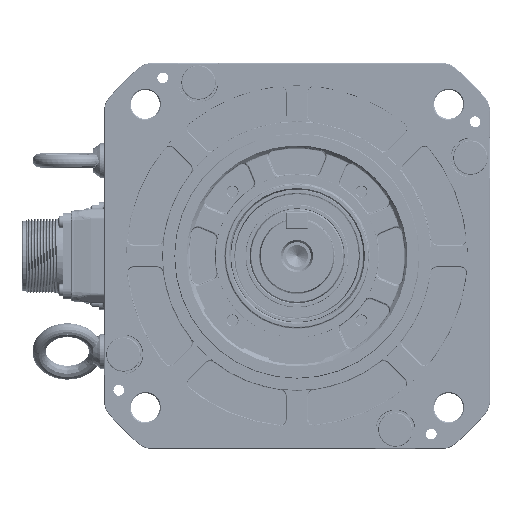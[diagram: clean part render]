
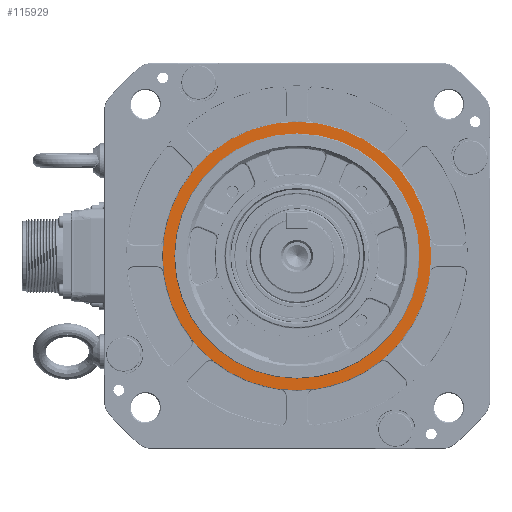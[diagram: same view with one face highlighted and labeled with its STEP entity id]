
A CAD part, left-side view. The second image highlights one B-rep face of the part: STEP entity #115929.
In plain terms, the highlighted planar face has unit normal (-1, 0, 0).
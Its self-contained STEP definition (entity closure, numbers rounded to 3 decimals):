
#404 = DIRECTION ( 'NONE',  ( 0., 0., -1. ) ) ;
#1047 = EDGE_CURVE ( 'NONE', #119074, #119074, #138706, .T. ) ;
#2658 = FACE_BOUND ( 'NONE', #79883, .T. ) ;
#12044 = AXIS2_PLACEMENT_3D ( 'NONE', #74759, #97770, #404 ) ;
#14904 = DIRECTION ( 'NONE',  ( 0., 0., -1. ) ) ;
#27126 = FACE_OUTER_BOUND ( 'NONE', #57266, .T. ) ;
#32975 = EDGE_CURVE ( 'NONE', #130398, #130398, #122417, .T. ) ;
#35814 = DIRECTION ( 'NONE',  ( 1., 0., 0. ) ) ;
#38764 = ORIENTED_EDGE ( 'NONE', *, *, #32975, .F. ) ;
#39709 = DIRECTION ( 'NONE',  ( -1., 0., 0. ) ) ;
#40993 = CARTESIAN_POINT ( 'NONE',  ( 3.7, 0., 57.15 ) ) ;
#43317 = CARTESIAN_POINT ( 'NONE',  ( 3.7, 0., -62.616 ) ) ;
#57266 = EDGE_LOOP ( 'NONE', ( #109620 ) ) ;
#60215 = AXIS2_PLACEMENT_3D ( 'NONE', #138511, #39709, #119763 ) ;
#74759 = CARTESIAN_POINT ( 'NONE',  ( 3.7, 0., 0. ) ) ;
#79883 = EDGE_LOOP ( 'NONE', ( #38764 ) ) ;
#90648 = CARTESIAN_POINT ( 'NONE',  ( 3.7, 0., 0. ) ) ;
#97770 = DIRECTION ( 'NONE',  ( -1., 0., 0. ) ) ;
#102010 = AXIS2_PLACEMENT_3D ( 'NONE', #90648, #35814, #14904 ) ;
#109620 = ORIENTED_EDGE ( 'NONE', *, *, #1047, .T. ) ;
#115929 = ADVANCED_FACE ( 'NONE', ( #27126, #2658 ), #124517, .F. ) ;
#119074 = VERTEX_POINT ( 'NONE', #43317 ) ;
#119763 = DIRECTION ( 'NONE',  ( 0., 0., 1. ) ) ;
#122417 = CIRCLE ( 'NONE', #60215, 57.15 ) ;
#124517 = PLANE ( 'NONE',  #102010 ) ;
#130398 = VERTEX_POINT ( 'NONE', #40993 ) ;
#138511 = CARTESIAN_POINT ( 'NONE',  ( 3.7, 0., 0. ) ) ;
#138706 = CIRCLE ( 'NONE', #12044, 62.616 ) ;
